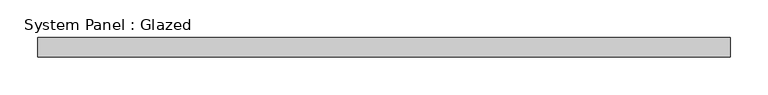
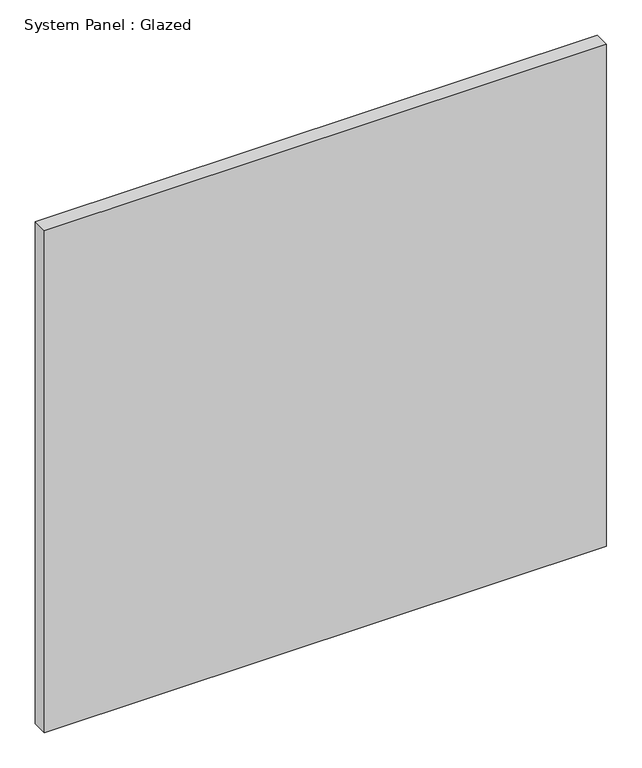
"""IFC4 building model written with IfcOpenShell, lengths in millimetres: plate geometry, System Panel : Glazed."""

from ifc_helpers import new_model, si_unit, origin, origin_with_axes, place, context, project, spatial, polyline, outline, extrude, source, transform, mapped, element, save


def system_panel_glazed_e3ca75ca(model_context):
    return source(origin(), model_context, "Body", "SweptSolid", [
        extrude(outline(polyline([(457.2, -44.45), (-457.2, -44.45), (-457.2, -19.05), (457.2, -19.05), (457.2, -44.45)])), origin_with_axes(), (0.0, 0.0, 1.0), 863.6),
    ])


if __name__ == "__main__":
    model = new_model("IFC4")
    model_context = context("Model", 3, world=origin())
    ifc_project = project(units=[si_unit("LENGTHUNIT", "METRE", prefix="MILLI")], contexts=[model_context])
    site = spatial("IfcSite", under=ifc_project)
    building = spatial("IfcBuilding", under=site)
    placement = place(None, origin())
    system_panel_glazed_shape = system_panel_glazed_e3ca75ca(model_context)
    element("IfcPlate", 1, ObjectType="System Panel : Glazed", at=placement, inside=building, context=model_context, shape_type="MappedRepresentation", body=[
        mapped(system_panel_glazed_shape, transform((0.0, 0.0, 0.0), x_axis=(1.0, 0.0, 0.0), y_axis=(0.0, 1.0, 0.0), z_axis=(0.0, 0.0, 1.0))),
    ])
    save(model, "model.ifc")
